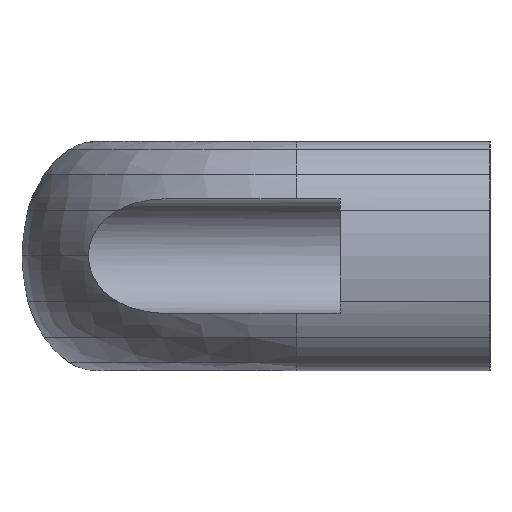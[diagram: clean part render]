
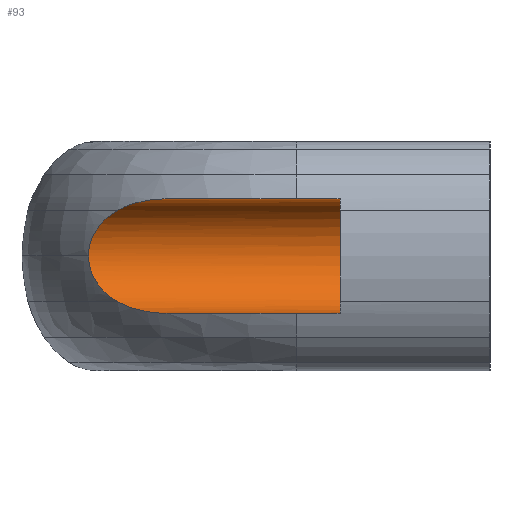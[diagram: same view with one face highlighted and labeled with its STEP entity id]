
A CAD part, left-side view. The second image highlights one B-rep face of the part: STEP entity #93.
In plain terms, the highlighted cylindrical face has radius 6.5 mm (diameter 13 mm), a partial arc.
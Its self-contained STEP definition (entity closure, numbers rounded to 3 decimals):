
#93 = ADVANCED_FACE( '', ( #193 ), #194, .F. );
#193 = FACE_OUTER_BOUND( '', #373, .T. );
#194 = CYLINDRICAL_SURFACE( '', #374, 6.5 );
#373 = EDGE_LOOP( '', ( #777, #778, #779, #780, #781, #782, #783, #784 ) );
#374 = AXIS2_PLACEMENT_3D( '', #785, #786, #787 );
#777 = ORIENTED_EDGE( '', *, *, #1491, .F. );
#778 = ORIENTED_EDGE( '', *, *, #1525, .F. );
#779 = ORIENTED_EDGE( '', *, *, #1503, .T. );
#780 = ORIENTED_EDGE( '', *, *, #1461, .T. );
#781 = ORIENTED_EDGE( '', *, *, #1457, .T. );
#782 = ORIENTED_EDGE( '', *, *, #1526, .T. );
#783 = ORIENTED_EDGE( '', *, *, #1512, .T. );
#784 = ORIENTED_EDGE( '', *, *, #1493, .F. );
#785 = CARTESIAN_POINT( '', ( -59., 120.18, 0. ) );
#786 = DIRECTION( '', ( 0., -1., 0. ) );
#787 = DIRECTION( '', ( 0., 0., -1. ) );
#1457 = EDGE_CURVE( '', #1655, #1656, #1657, .T. );
#1461 = EDGE_CURVE( '', #1663, #1655, #1664, .T. );
#1491 = EDGE_CURVE( '', #1716, #1717, #1718, .T. );
#1493 = EDGE_CURVE( '', #1717, #1720, #1721, .T. );
#1503 = EDGE_CURVE( '', #1732, #1663, #1739, .T. );
#1512 = EDGE_CURVE( '', #1756, #1720, #1757, .T. );
#1525 = EDGE_CURVE( '', #1732, #1716, #1778, .T. );
#1526 = EDGE_CURVE( '', #1656, #1756, #1779, .T. );
#1655 = VERTEX_POINT( '', #1976 );
#1656 = VERTEX_POINT( '', #1977 );
#1657 = B_SPLINE_CURVE_WITH_KNOTS( '', 3, ( #1978, #1979, #1980, #1981, #1982, #1983, #1984, #1985, #1986, #1987, #1988, #1989, #1990, #1991 ), .UNSPECIFIED., .F., .F., ( 4, 2, 2, 2, 2, 2, 4 ), ( 0., 0.001, 0.002, 0.003, 0.004, 0.005, 0.007 ), .UNSPECIFIED. );
#1663 = VERTEX_POINT( '', #1997 );
#1664 = B_SPLINE_CURVE_WITH_KNOTS( '', 3, ( #1998, #1999, #2000, #2001, #2002, #2003, #2004, #2005, #2006, #2007, #2008, #2009, #2010, #2011 ), .UNSPECIFIED., .F., .F., ( 4, 2, 2, 2, 2, 2, 4 ), ( 0., 0.002, 0.003, 0.004, 0.005, 0.006, 0.007 ), .UNSPECIFIED. );
#1716 = VERTEX_POINT( '', #2129 );
#1717 = VERTEX_POINT( '', #2130 );
#1718 = CIRCLE( '', #2131, 6.5 );
#1720 = VERTEX_POINT( '', #2133 );
#1721 = CIRCLE( '', #2134, 6.5 );
#1732 = VERTEX_POINT( '', #2147 );
#1739 = B_SPLINE_CURVE_WITH_KNOTS( '', 3, ( #2167, #2168, #2169, #2170, #2171, #2172, #2173, #2174 ), .UNSPECIFIED., .F., .F., ( 4, 2, 2, 4 ), ( 0., 0.004, 0.005, 0.007 ), .UNSPECIFIED. );
#1756 = VERTEX_POINT( '', #2223 );
#1757 = LINE( '', #2224, #2225 );
#1778 = LINE( '', #2285, #2286 );
#1779 = B_SPLINE_CURVE_WITH_KNOTS( '', 3, ( #2287, #2288, #2289, #2290, #2291, #2292, #2293, #2294, #2295, #2296 ), .UNSPECIFIED., .F., .F., ( 4, 2, 2, 2, 4 ), ( 0., 0.002, 0.004, 0.005, 0.007 ), .UNSPECIFIED. );
#1976 = CARTESIAN_POINT( '', ( -52.5, 45.498, 0. ) );
#1977 = CARTESIAN_POINT( '', ( -55.065, 42.216, -5.174 ) );
#1978 = CARTESIAN_POINT( '', ( -52.5, 45.498, 0. ) );
#1979 = CARTESIAN_POINT( '', ( -52.5, 45.498, -0.296 ) );
#1980 = CARTESIAN_POINT( '', ( -52.52, 45.474, -0.586 ) );
#1981 = CARTESIAN_POINT( '', ( -52.597, 45.378, -1.158 ) );
#1982 = CARTESIAN_POINT( '', ( -52.656, 45.306, -1.441 ) );
#1983 = CARTESIAN_POINT( '', ( -52.802, 45.125, -1.977 ) );
#1984 = CARTESIAN_POINT( '', ( -52.889, 45.016, -2.232 ) );
#1985 = CARTESIAN_POINT( '', ( -53.091, 44.765, -2.72 ) );
#1986 = CARTESIAN_POINT( '', ( -53.205, 44.622, -2.954 ) );
#1987 = CARTESIAN_POINT( '', ( -53.568, 44.164, -3.604 ) );
#1988 = CARTESIAN_POINT( '', ( -53.842, 43.815, -3.98 ) );
#1989 = CARTESIAN_POINT( '', ( -54.434, 43.05, -4.647 ) );
#1990 = CARTESIAN_POINT( '', ( -54.745, 42.643, -4.93 ) );
#1991 = CARTESIAN_POINT( '', ( -55.065, 42.216, -5.174 ) );
#1997 = CARTESIAN_POINT( '', ( -55.077, 42.201, 5.182 ) );
#1998 = CARTESIAN_POINT( '', ( -55.077, 42.201, 5.182 ) );
#1999 = CARTESIAN_POINT( '', ( -54.755, 42.63, 4.939 ) );
#2000 = CARTESIAN_POINT( '', ( -54.444, 43.037, 4.657 ) );
#2001 = CARTESIAN_POINT( '', ( -53.855, 43.798, 3.997 ) );
#2002 = CARTESIAN_POINT( '', ( -53.574, 44.156, 3.614 ) );
#2003 = CARTESIAN_POINT( '', ( -53.208, 44.617, 2.961 ) );
#2004 = CARTESIAN_POINT( '', ( -53.094, 44.76, 2.728 ) );
#2005 = CARTESIAN_POINT( '', ( -52.891, 45.014, 2.237 ) );
#2006 = CARTESIAN_POINT( '', ( -52.803, 45.123, 1.981 ) );
#2007 = CARTESIAN_POINT( '', ( -52.656, 45.305, 1.445 ) );
#2008 = CARTESIAN_POINT( '', ( -52.598, 45.377, 1.161 ) );
#2009 = CARTESIAN_POINT( '', ( -52.52, 45.473, 0.588 ) );
#2010 = CARTESIAN_POINT( '', ( -52.5, 45.498, 0.296 ) );
#2011 = CARTESIAN_POINT( '', ( -52.5, 45.498, 0. ) );
#2129 = CARTESIAN_POINT( '', ( -59., 17., 6.5 ) );
#2130 = CARTESIAN_POINT( '', ( -52.5, 17., 0. ) );
#2131 = AXIS2_PLACEMENT_3D( '', #2736, #2737, #2738 );
#2133 = CARTESIAN_POINT( '', ( -59., 17., -6.5 ) );
#2134 = AXIS2_PLACEMENT_3D( '', #2742, #2743, #2744 );
#2147 = CARTESIAN_POINT( '', ( -59., 36.483, 6.5 ) );
#2167 = CARTESIAN_POINT( '', ( -59., 36.483, 6.5 ) );
#2168 = CARTESIAN_POINT( '', ( -58.37, 37.492, 6.5 ) );
#2169 = CARTESIAN_POINT( '', ( -57.722, 38.475, 6.41 ) );
#2170 = CARTESIAN_POINT( '', ( -56.733, 39.913, 6.102 ) );
#2171 = CARTESIAN_POINT( '', ( -56.4, 40.388, 5.969 ) );
#2172 = CARTESIAN_POINT( '', ( -55.733, 41.316, 5.632 ) );
#2173 = CARTESIAN_POINT( '', ( -55.403, 41.767, 5.429 ) );
#2174 = CARTESIAN_POINT( '', ( -55.077, 42.201, 5.182 ) );
#2223 = CARTESIAN_POINT( '', ( -59., 36.483, -6.5 ) );
#2224 = CARTESIAN_POINT( '', ( -59., 120.18, -6.5 ) );
#2225 = VECTOR( '', #2774, 1000. );
#2285 = CARTESIAN_POINT( '', ( -59., 120.18, 6.5 ) );
#2286 = VECTOR( '', #2793, 1000. );
#2287 = CARTESIAN_POINT( '', ( -55.065, 42.216, -5.174 ) );
#2288 = CARTESIAN_POINT( '', ( -55.393, 41.78, -5.423 ) );
#2289 = CARTESIAN_POINT( '', ( -55.723, 41.331, -5.626 ) );
#2290 = CARTESIAN_POINT( '', ( -56.384, 40.409, -5.962 ) );
#2291 = CARTESIAN_POINT( '', ( -56.716, 39.938, -6.095 ) );
#2292 = CARTESIAN_POINT( '', ( -57.378, 38.975, -6.304 ) );
#2293 = CARTESIAN_POINT( '', ( -57.71, 38.483, -6.379 ) );
#2294 = CARTESIAN_POINT( '', ( -58.362, 37.49, -6.477 ) );
#2295 = CARTESIAN_POINT( '', ( -58.684, 36.989, -6.5 ) );
#2296 = CARTESIAN_POINT( '', ( -59., 36.483, -6.5 ) );
#2736 = CARTESIAN_POINT( '', ( -59., 17., 0. ) );
#2737 = DIRECTION( '', ( 0., 1., 0. ) );
#2738 = DIRECTION( '', ( 0., 0., 1. ) );
#2742 = CARTESIAN_POINT( '', ( -59., 17., 0. ) );
#2743 = DIRECTION( '', ( 0., 1., 0. ) );
#2744 = DIRECTION( '', ( 0., 0., 1. ) );
#2774 = DIRECTION( '', ( 0., -1., 0. ) );
#2793 = DIRECTION( '', ( 0., -1., 0. ) );
